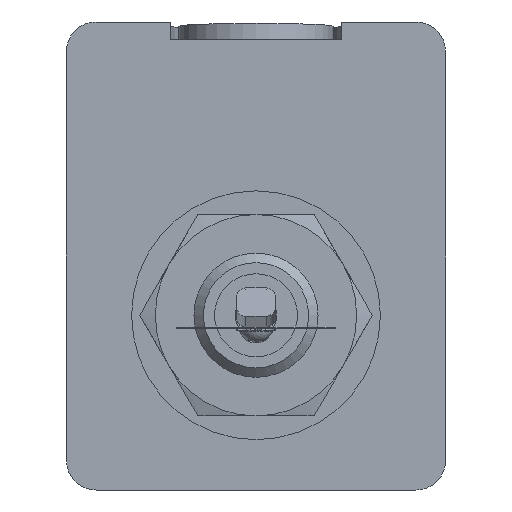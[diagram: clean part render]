
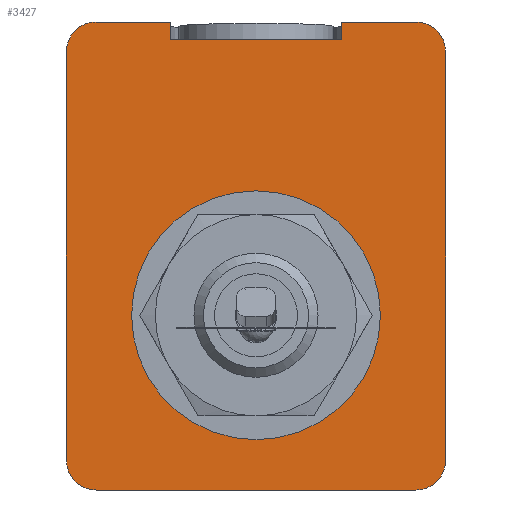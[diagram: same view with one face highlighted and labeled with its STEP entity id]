
A CAD part, front view. The second image highlights one B-rep face of the part: STEP entity #3427.
In plain terms, the highlighted planar face has unit normal (0, -1, 0).
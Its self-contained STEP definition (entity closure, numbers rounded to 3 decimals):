
#104=FACE_BOUND('',#524,.T.);
#148=PLANE('',#3705);
#255=ELLIPSE('',#3706,5.006,5.);
#256=ELLIPSE('',#3707,5.006,5.);
#257=ELLIPSE('',#3708,5.006,5.);
#258=ELLIPSE('',#3709,5.006,5.);
#317=FACE_OUTER_BOUND('',#523,.T.);
#523=EDGE_LOOP('',(#2558,#2559,#2560,#2561,#2562,#2563,#2564,#2565,#2566,
#2567,#2568,#2569));
#524=EDGE_LOOP('',(#2570,#2571));
#734=LINE('',#5255,#1044);
#738=LINE('',#5277,#1048);
#743=LINE('',#5286,#1053);
#756=LINE('',#5327,#1066);
#758=LINE('',#5330,#1068);
#760=LINE('',#5337,#1070);
#761=LINE('',#5341,#1071);
#762=LINE('',#5345,#1072);
#1044=VECTOR('',#4186,10.);
#1048=VECTOR('',#4206,10.);
#1053=VECTOR('',#4211,10.);
#1066=VECTOR('',#4248,10.);
#1068=VECTOR('',#4252,10.);
#1070=VECTOR('',#4260,10.);
#1071=VECTOR('',#4263,10.);
#1072=VECTOR('',#4266,10.);
#1338=CIRCLE('',#3670,21.);
#1339=CIRCLE('',#3671,21.);
#1516=VERTEX_POINT('',#5229);
#1517=VERTEX_POINT('',#5231);
#1524=VERTEX_POINT('',#5253);
#1525=VERTEX_POINT('',#5254);
#1534=VERTEX_POINT('',#5274);
#1535=VERTEX_POINT('',#5276);
#1538=VERTEX_POINT('',#5283);
#1539=VERTEX_POINT('',#5285);
#1556=VERTEX_POINT('',#5334);
#1557=VERTEX_POINT('',#5336);
#1558=VERTEX_POINT('',#5338);
#1559=VERTEX_POINT('',#5340);
#1560=VERTEX_POINT('',#5342);
#1561=VERTEX_POINT('',#5344);
#1886=EDGE_CURVE('',#1517,#1516,#1338,.T.);
#1887=EDGE_CURVE('',#1516,#1517,#1339,.T.);
#1896=EDGE_CURVE('',#1524,#1525,#734,.T.);
#1906=EDGE_CURVE('',#1534,#1535,#738,.T.);
#1911=EDGE_CURVE('',#1538,#1539,#743,.T.);
#1932=EDGE_CURVE('',#1525,#1539,#756,.T.);
#1934=EDGE_CURVE('',#1534,#1524,#758,.T.);
#1936=EDGE_CURVE('',#1556,#1538,#255,.T.);
#1937=EDGE_CURVE('',#1557,#1556,#760,.T.);
#1938=EDGE_CURVE('',#1558,#1557,#256,.T.);
#1939=EDGE_CURVE('',#1559,#1558,#761,.T.);
#1940=EDGE_CURVE('',#1560,#1559,#257,.T.);
#1941=EDGE_CURVE('',#1561,#1560,#762,.T.);
#1942=EDGE_CURVE('',#1535,#1561,#258,.T.);
#2558=ORIENTED_EDGE('',*,*,#1934,.T.);
#2559=ORIENTED_EDGE('',*,*,#1896,.T.);
#2560=ORIENTED_EDGE('',*,*,#1932,.T.);
#2561=ORIENTED_EDGE('',*,*,#1911,.F.);
#2562=ORIENTED_EDGE('',*,*,#1936,.F.);
#2563=ORIENTED_EDGE('',*,*,#1937,.F.);
#2564=ORIENTED_EDGE('',*,*,#1938,.F.);
#2565=ORIENTED_EDGE('',*,*,#1939,.F.);
#2566=ORIENTED_EDGE('',*,*,#1940,.F.);
#2567=ORIENTED_EDGE('',*,*,#1941,.F.);
#2568=ORIENTED_EDGE('',*,*,#1942,.F.);
#2569=ORIENTED_EDGE('',*,*,#1906,.F.);
#2570=ORIENTED_EDGE('',*,*,#1886,.T.);
#2571=ORIENTED_EDGE('',*,*,#1887,.T.);
#3427=ADVANCED_FACE('',(#317,#104),#148,.F.);
#3670=AXIS2_PLACEMENT_3D('',#5232,#4158,#4159);
#3671=AXIS2_PLACEMENT_3D('',#5233,#4160,#4161);
#3705=AXIS2_PLACEMENT_3D('',#5333,#4256,#4257);
#3706=AXIS2_PLACEMENT_3D('',#5335,#4258,#4259);
#3707=AXIS2_PLACEMENT_3D('',#5339,#4261,#4262);
#3708=AXIS2_PLACEMENT_3D('',#5343,#4264,#4265);
#3709=AXIS2_PLACEMENT_3D('',#5346,#4267,#4268);
#4158=DIRECTION('center_axis',(0.,1.,0.));
#4159=DIRECTION('ref_axis',(1.,0.,0.));
#4160=DIRECTION('center_axis',(0.,1.,0.));
#4161=DIRECTION('ref_axis',(1.,0.,0.));
#4186=DIRECTION('',(-1.,0.,0.));
#4206=DIRECTION('',(1.,0.,0.));
#4211=DIRECTION('',(1.,0.,0.));
#4248=DIRECTION('',(0.,0.,1.));
#4252=DIRECTION('',(0.,0.,-1.));
#4256=DIRECTION('center_axis',(0.,1.,0.));
#4257=DIRECTION('ref_axis',(0.,0.,1.));
#4258=DIRECTION('center_axis',(0.,1.,0.));
#4259=DIRECTION('ref_axis',(-0.707,0.,0.707));
#4260=DIRECTION('',(0.,0.,1.));
#4261=DIRECTION('center_axis',(0.,1.,0.));
#4262=DIRECTION('ref_axis',(-0.707,0.,-0.707));
#4263=DIRECTION('',(-1.,0.,0.));
#4264=DIRECTION('center_axis',(0.,1.,0.));
#4265=DIRECTION('ref_axis',(0.707,0.,-0.707));
#4266=DIRECTION('',(0.,0.,-1.));
#4267=DIRECTION('center_axis',(0.,1.,0.));
#4268=DIRECTION('ref_axis',(0.707,0.,0.707));
#5229=CARTESIAN_POINT('',(-21.,0.,-10.));
#5231=CARTESIAN_POINT('',(21.,0.,-10.));
#5232=CARTESIAN_POINT('Origin',(0.,0.,-10.));
#5233=CARTESIAN_POINT('Origin',(0.,0.,-10.));
#5253=CARTESIAN_POINT('',(14.5,0.,36.498));
#5254=CARTESIAN_POINT('',(-14.5,0.,36.498));
#5255=CARTESIAN_POINT('',(0.,0.,36.498));
#5274=CARTESIAN_POINT('',(14.5,0.,39.5));
#5276=CARTESIAN_POINT('',(27.003,0.,39.5));
#5277=CARTESIAN_POINT('',(-32.,0.,39.5));
#5283=CARTESIAN_POINT('',(-27.003,0.,39.5));
#5285=CARTESIAN_POINT('',(-14.5,0.,39.5));
#5286=CARTESIAN_POINT('',(-32.,0.,39.5));
#5327=CARTESIAN_POINT('',(-14.5,0.,19.75));
#5330=CARTESIAN_POINT('',(14.5,0.,19.401));
#5333=CARTESIAN_POINT('Origin',(0.,0.,0.));
#5334=CARTESIAN_POINT('',(-32.,0.,34.503));
#5335=CARTESIAN_POINT('Origin',(-26.997,0.,34.497));
#5336=CARTESIAN_POINT('',(-32.,0.,-34.503));
#5337=CARTESIAN_POINT('',(-32.,0.,-39.5));
#5338=CARTESIAN_POINT('',(-27.003,0.,-39.5));
#5339=CARTESIAN_POINT('Origin',(-26.997,0.,-34.497));
#5340=CARTESIAN_POINT('',(27.003,0.,-39.5));
#5341=CARTESIAN_POINT('',(32.,0.,-39.5));
#5342=CARTESIAN_POINT('',(32.,0.,-34.503));
#5343=CARTESIAN_POINT('Origin',(26.997,0.,-34.497));
#5344=CARTESIAN_POINT('',(32.,0.,34.503));
#5345=CARTESIAN_POINT('',(32.,0.,39.5));
#5346=CARTESIAN_POINT('Origin',(26.997,0.,34.497));
